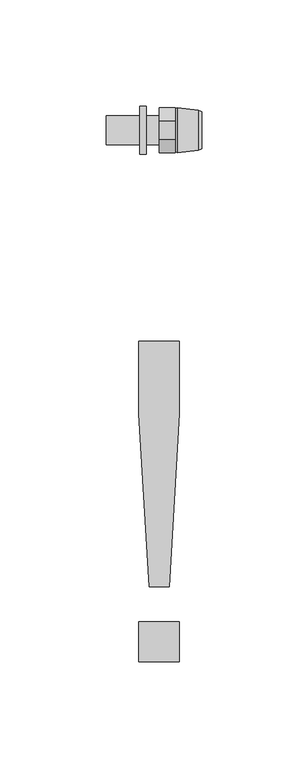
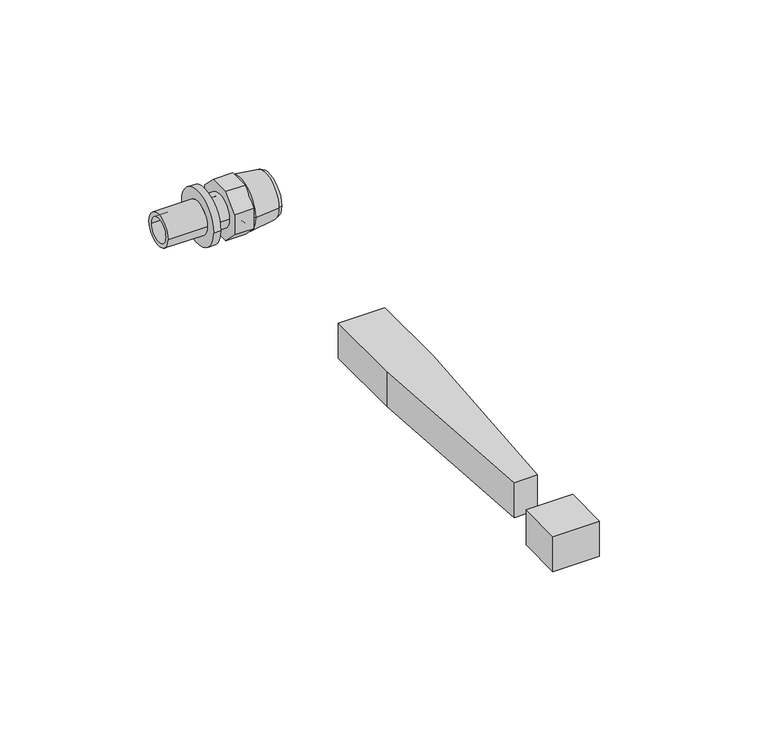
"""IFC4 building model written with IfcOpenShell, lengths in millimetres: pipe fitting geometry, RAUTITAN_Adapter_external_thread LX+G_LX : RTI A external LX+G_LX DE."""

from ifc_helpers import new_model, si_unit, frame, origin, origin_with_axes, place, context, project, spatial, polyline, circle_curve, outline, extrude, source, transform, mapped, element, save
from ifc_brep_helpers import plane_surface, cylinder_surface, revolved_surface, advanced_brep


def pipe_fitting_cf95003e(model_context):
    return source(origin(), model_context, "Body", "SolidModel", [
        extrude(outline(polyline([(-4.7088895, -214.6833285), (-9.4177791, -133.3446193), (-9.4177791, -99.3155348), (9.4177791, -99.3155348), (9.4177791, -133.3446193), (4.7088895, -214.6833285), (-4.7088895, -214.6833285)])), origin_with_axes(), (0.0, 0.0, 1.0), 15.0),
        extrude(outline(polyline([(-9.4177791, -250.0), (-9.4177791, -231.1644418), (9.4177791, -231.1644418), (9.4177791, -250.0), (-9.4177791, -250.0)])), origin_with_axes(), (0.0, 0.0, 1.0), 15.0),
        advanced_brep(
        [(-8.97, 6.725, 0.0), (-8.97, -6.725, 0.0), (-24.8, -6.725, 0.0), (-24.8, 6.725, 0.0), (-6.1, 11.25, 0.0), (-6.1, -11.25, 0.0), (-8.97, -11.25, 0.0), (-8.97, 11.25, 0.0), (-24.8, 4.95, 0.0), (-24.8, -4.95, 0.0), (0.0, -4.95, 0.0), (0.0, 4.95, 0.0), (0.0, 6.725, 0.0), (0.0, -6.725, 0.0), (-6.1, -6.725, 0.0), (-6.1, 6.725, 0.0)],
        [
            (0, 1, circle_curve(frame((-8.97, 0.0, 0.0), z_axis=(-1.0, 0.0, 0.0), x_axis=(0.0, -1.0, 0.0)), 6.725)),
            (1, 2),
            (2, 3, circle_curve(frame((-24.8, 0.0, 0.0), z_axis=(1.0, 0.0, 0.0), x_axis=(0.0, -1.0, 0.0)), 6.725)),
            (3, 0),
            (4, 5, circle_curve(frame((-6.1, 0.0, 0.0), z_axis=(-1.0, 0.0, 0.0), x_axis=(0.0, -1.0, 0.0)), 11.25)),
            (5, 6),
            (6, 7, circle_curve(frame((-8.97, 0.0, 0.0), z_axis=(1.0, 0.0, 0.0), x_axis=(0.0, -1.0, 0.0)), 11.25)),
            (7, 4),
            (8, 9, circle_curve(frame((-24.8, 0.0, 0.0), z_axis=(-1.0, 0.0, 0.0), x_axis=(0.0, -1.0, 0.0)), 4.95)),
            (9, 10),
            (10, 11, circle_curve(frame((0.0, 0.0, 0.0), z_axis=(1.0, 0.0, 0.0), x_axis=(0.0, -1.0, 0.0)), 4.95)),
            (11, 8),
            (2, 3, circle_curve(frame((-24.8, 0.0, 0.0), z_axis=(-1.0, 0.0, 0.0), x_axis=(0.0, 1.0, 0.0)), 6.725)),
            (8, 9, circle_curve(frame((-24.8, 0.0, 0.0), z_axis=(1.0, 0.0, 0.0), x_axis=(0.0, 1.0, 0.0)), 4.95)),
            (1, 0, circle_curve(frame((-8.97, 0.0, 0.0), z_axis=(-1.0, 0.0, 0.0), x_axis=(0.0, 1.0, 0.0)), 6.725)),
            (6, 7, circle_curve(frame((-8.97, 0.0, 0.0), z_axis=(-1.0, 0.0, 0.0), x_axis=(0.0, 1.0, 0.0)), 11.25)),
            (5, 4, circle_curve(frame((-6.1, 0.0, 0.0), z_axis=(-1.0, 0.0, 0.0), x_axis=(0.0, 1.0, 0.0)), 11.25)),
            (12, 13, circle_curve(frame((0.0, 0.0, 0.0), z_axis=(1.0, 0.0, 0.0), x_axis=(0.0, 1.0, 0.0)), 6.725)),
            (13, 12, circle_curve(frame((0.0, 0.0, 0.0), z_axis=(1.0, 0.0, 0.0), x_axis=(0.0, -1.0, 0.0)), 6.725)),
            (10, 11, circle_curve(frame((0.0, 0.0, 0.0), z_axis=(-1.0, 0.0, 0.0), x_axis=(0.0, 1.0, 0.0)), 4.95)),
            (13, 14),
            (14, 15, circle_curve(frame((-6.1, 0.0, 0.0), z_axis=(1.0, 0.0, 0.0), x_axis=(0.0, -1.0, 0.0)), 6.725)),
            (15, 12),
            (14, 15, circle_curve(frame((-6.1, 0.0, 0.0), z_axis=(-1.0, 0.0, 0.0), x_axis=(0.0, 1.0, 0.0)), 6.725)),
        ],
        [
            cylinder_surface(frame((0.0, 0.0, 0.0), z_axis=(1.0, 0.0, 0.0), x_axis=(0.0, -1.0, 0.0)), 6.725),
            cylinder_surface(frame((0.0, 0.0, 0.0), z_axis=(1.0, 0.0, 0.0), x_axis=(0.0, -1.0, 0.0)), 11.25),
            revolved_surface(polyline([(0.0, -4.95, 0.0), (-24.8, -4.95, 0.0)]), (0.0, 0.0, 0.0), (1.0, 0.0, 0.0)),
            plane_surface(frame((-24.8, 0.0, 0.0), z_axis=(-1.0, 0.0, 0.0), x_axis=(0.0, 1.0, 0.0))),
            cylinder_surface(frame((0.0, 0.0, 0.0), z_axis=(1.0, 0.0, 0.0), x_axis=(0.0, 1.0, 0.0)), 6.725),
            plane_surface(frame((-8.97, 0.0, 0.0), z_axis=(-1.0, 0.0, 0.0), x_axis=(0.0, 1.0, 0.0))),
            cylinder_surface(frame((0.0, 0.0, 0.0), z_axis=(1.0, 0.0, 0.0), x_axis=(0.0, 1.0, 0.0)), 11.25),
            plane_surface(frame((0.0, 0.0, 0.0), z_axis=(1.0, 0.0, 0.0), x_axis=(0.0, 1.0, 0.0))),
            revolved_surface(polyline([(0.0, 4.95, 0.0), (-24.8, 4.95, 0.0)]), (0.0, 0.0, 0.0), (1.0, 0.0, 0.0)),
            plane_surface(frame((-6.1, 0.0, 0.0), z_axis=(1.0, 0.0, 0.0), x_axis=(0.0, 1.0, 0.0))),
        ],
        [
            (0, [[1, 2, 3, 4]]),
            (1, [[5, 6, 7, 8]]),
            (2, [[9, 10, 11, 12]]),
            (3, [[13, -3], [14, -9]]),
            (4, [[15, -4, -13, -2]]),
            (5, [[16, -7], [-15, -1]]),
            (6, [[17, -8, -16, -6]]),
            (7, [[18, 19], [20, -11]]),
            (8, [[-14, -12, -20, -10]]),
            (0, [[-19, 21, 22, 23]]),
            (9, [[-17, -5], [24, -22]]),
            (4, [[-18, -23, -24, -21]]),
        ],
    ),
        advanced_brep(
        [(8.8232803, 7.5, 0.0), (8.8232803, -7.5, 0.0), (19.99, -7.5, 0.0), (19.99, 7.5, 0.0), (7.72, 6.3967197, 0.0), (7.72, -6.3967197, 0.0), (8.4606902, 10.55, 0.0), (8.4606902, -10.55, 0.0), (7.72, -10.0, 0.0), (7.72, 10.0, 0.0), (18.4900007, 9.39, 0.0), (18.4900007, -9.39, 0.0), (19.99, 8.725, 0.0), (19.99, -8.725, 0.0)],
        [
            (0, 1, circle_curve(frame((8.8232803, 0.0, 0.0), z_axis=(-1.0, 0.0, 0.0), x_axis=(0.0, -1.0, 0.0)), 7.5)),
            (1, 2),
            (2, 3, circle_curve(frame((19.99, 0.0, 0.0), z_axis=(1.0, 0.0, 0.0), x_axis=(0.0, -1.0, 0.0)), 7.5)),
            (3, 0),
            (4, 5, circle_curve(frame((7.72, 0.0, 0.0), z_axis=(-1.0, 0.0, 0.0), x_axis=(0.0, -1.0, 0.0)), 6.3967197)),
            (5, 1),
            (0, 4),
            (6, 7, circle_curve(frame((8.4606902, 0.0, 0.0), z_axis=(-1.0, 0.0, 0.0), x_axis=(0.0, -1.0, 0.0)), 10.55)),
            (7, 8),
            (8, 9, circle_curve(frame((7.72, 0.0, 0.0), z_axis=(1.0, 0.0, 0.0), x_axis=(0.0, -1.0, 0.0)), 10.0)),
            (9, 6),
            (10, 11, circle_curve(frame((18.4900007, 0.0, 0.0), z_axis=(-1.0, 0.0, 0.0), x_axis=(0.0, -1.0, 0.0)), 9.39)),
            (11, 7),
            (6, 10),
            (12, 13, circle_curve(frame((19.99, 0.0, 0.0), z_axis=(-1.0, 0.0, 0.0), x_axis=(0.0, -1.0, 0.0)), 8.725)),
            (13, 11),
            (10, 12),
            (1, 0, circle_curve(frame((8.8232803, 0.0, 0.0), z_axis=(-1.0, 0.0, 0.0), x_axis=(0.0, 1.0, 0.0)), 7.5)),
            (3, 2, circle_curve(frame((19.99, 0.0, 0.0), z_axis=(1.0, 0.0, 0.0), x_axis=(0.0, 1.0, 0.0)), 7.5)),
            (5, 4, circle_curve(frame((7.72, 0.0, 0.0), z_axis=(-1.0, 0.0, 0.0), x_axis=(0.0, 1.0, 0.0)), 6.3967197)),
            (8, 9, circle_curve(frame((7.72, 0.0, 0.0), z_axis=(-1.0, 0.0, 0.0), x_axis=(0.0, 1.0, 0.0)), 10.0)),
            (7, 6, circle_curve(frame((8.4606902, 0.0, 0.0), z_axis=(-1.0, 0.0, 0.0), x_axis=(0.0, 1.0, 0.0)), 10.55)),
            (11, 10, circle_curve(frame((18.4900007, 0.0, 0.0), z_axis=(-1.0, 0.0, 0.0), x_axis=(0.0, 1.0, 0.0)), 9.39)),
            (13, 12, circle_curve(frame((19.99, 0.0, 0.0), z_axis=(-1.0, 0.0, 0.0), x_axis=(0.0, 1.0, 0.0)), 8.725)),
        ],
        [
            revolved_surface(polyline([(19.99, -7.5, 0.0), (8.8232803, -7.5, 0.0)]), (0.0, 0.0, 0.0), (1.0, 0.0, 0.0)),
            revolved_surface(polyline([(8.8232803, -7.5, 0.0), (7.72, -6.3967197, 0.0)]), (0.0, 0.0, 0.0), (1.0, 0.0, 0.0)),
            revolved_surface(polyline([(7.72, -10.0, 0.0), (8.4606902, -10.55, 0.0)]), (0.0, 0.0, 0.0), (1.0, 0.0, 0.0)),
            revolved_surface(polyline([(8.4606902, -10.55, 0.0), (18.4900007, -9.39, 0.0)]), (0.0, 0.0, 0.0), (1.0, 0.0, 0.0)),
            revolved_surface(polyline([(18.4900007, -9.39, 0.0), (19.99, -8.725, 0.0)]), (0.0, 0.0, 0.0), (1.0, 0.0, 0.0)),
            revolved_surface(polyline([(19.99, 7.5, 0.0), (8.8232803, 7.5, 0.0)]), (0.0, 0.0, 0.0), (1.0, 0.0, 0.0)),
            revolved_surface(polyline([(8.8232803, 7.5, 0.0), (7.72, 6.3967197, 0.0)]), (0.0, 0.0, 0.0), (1.0, 0.0, 0.0)),
            plane_surface(frame((7.72, 0.0, 0.0), z_axis=(-1.0, 0.0, 0.0), x_axis=(0.0, 1.0, 0.0))),
            revolved_surface(polyline([(7.72, 10.0, 0.0), (8.4606902, 10.55, 0.0)]), (0.0, 0.0, 0.0), (1.0, 0.0, 0.0)),
            revolved_surface(polyline([(8.4606902, 10.55, 0.0), (18.4900007, 9.39, 0.0)]), (0.0, 0.0, 0.0), (1.0, 0.0, 0.0)),
            revolved_surface(polyline([(18.4900007, 9.39, 0.0), (19.99, 8.725, 0.0)]), (0.0, 0.0, 0.0), (1.0, 0.0, 0.0)),
            plane_surface(frame((19.99, 0.0, 0.0), z_axis=(1.0, 0.0, 0.0), x_axis=(0.0, 1.0, 0.0))),
        ],
        [
            (0, [[1, 2, 3, 4]]),
            (1, [[5, 6, -1, 7]]),
            (2, [[8, 9, 10, 11]]),
            (3, [[12, 13, -8, 14]]),
            (4, [[15, 16, -12, 17]]),
            (5, [[18, -4, 19, -2]]),
            (6, [[20, -7, -18, -6]]),
            (7, [[21, -10], [-20, -5]]),
            (8, [[22, -11, -21, -9]]),
            (9, [[23, -14, -22, -13]]),
            (10, [[24, -17, -23, -16]]),
            (11, [[-24, -15], [-19, -3]]),
        ],
    ),
        extrude(outline(polyline([(-10.5, 4.3492424), (-4.3492424, 10.5), (4.3492424, 10.5), (10.5, 4.3492424), (10.5, -4.3492424), (4.3492424, -10.5), (-4.3492424, -10.5), (-10.5, -4.3492424), (-10.5, 4.3492424)])), frame((0.0, 0.0, 0.0), z_axis=(1.0, 0.0, 0.0), x_axis=(0.0, 1.0, 0.0)), (0.0, 0.0, 1.0), 7.72),
    ])


if __name__ == "__main__":
    model = new_model("IFC4")
    model_context = context("Model", 3, world=origin())
    ifc_project = project(units=[si_unit("LENGTHUNIT", "METRE", prefix="MILLI")], contexts=[model_context])
    site = spatial("IfcSite", under=ifc_project)
    building = spatial("IfcBuilding", under=site)
    placement = place(None, origin())
    pipe_fitting_shape = pipe_fitting_cf95003e(model_context)
    element("IfcPipeFitting", 1, ObjectType="RAUTITAN_Adapter_external_thread LX+G_LX : RTI A external LX+G_LX DE", at=placement, inside=building, context=model_context, shape_type="MappedRepresentation", body=[
        mapped(pipe_fitting_shape, transform((0.0, 0.0, 0.0), x_axis=(1.0, 0.0, 0.0), y_axis=(0.0, 1.0, 0.0), z_axis=(0.0, 0.0, 1.0))),
    ])
    save(model, "model.ifc")
